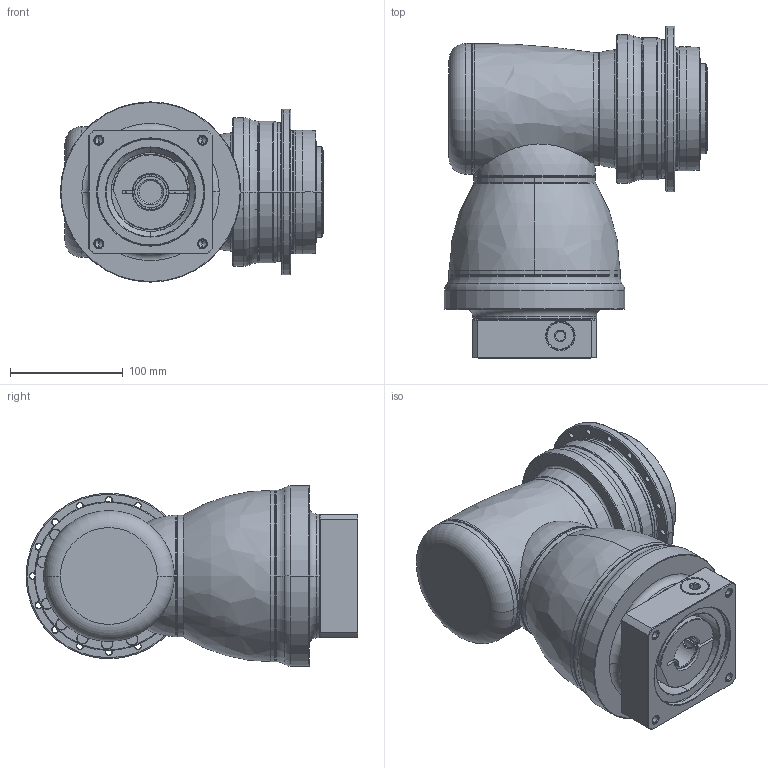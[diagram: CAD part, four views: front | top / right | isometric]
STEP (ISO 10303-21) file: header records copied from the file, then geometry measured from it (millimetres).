
FILE_DESCRIPTION((''),'2;1');
FILE_NAME('APK110_2ST_SBG_28-P0409610201_ASM','2018-10-30T',('d01226'),(''),'PRO/ENGINEER BY PARAMETRIC TECHNOLOGY CORPORATION, 2015240','PRO/ENGINEER BY PARAMETRIC TECHNOLOGY CORPORATION, 2015240','');
FILE_SCHEMA(('CONFIG_CONTROL_DESIGN'));
Length unit declared in the file: millimetre
Products named in the file (13): P0278401003; P0359401103; P1211400001; P1802410011; P1018500002; P1365500001; P1007501001; P1318501101; P0503600010; P0912551001; P0409610201; 21711418017; APK110_2ST_SBG_28-P0409610201_ASM
Assembly tree (12 placements, depth 2):
  APK110_2ST_SBG_28-P0409610201_ASM
    P0278401003
    P0359401103
    P1211400001
    P1802410011
    P1018500002
    P1365500001
    P1007501001
    P1318501101
    P0503600010
    P0912551001
    P0409610201
    21711418017
Bounding box: 233.5 x 294.5 x 160 mm (x, y, z)
Volume: 4697274.7 mm3; surface area: 485364.8 mm2
Topology: 13 solids, 34 shells, 792 faces, 1822 edges, 1118 vertices
Faces by surface type: cylinder 335, cone 199, plane 154, torus 83, bspline 19, sphere 2
Entity records: 27755 total; most frequent: CARTESIAN_POINT 9047, DIRECTION 4324, ORIENTED_EDGE 3486, AXIS2_PLACEMENT_3D 1862, EDGE_CURVE 1786, VERTEX_POINT 1118, CIRCLE 1054, EDGE_LOOP 938
